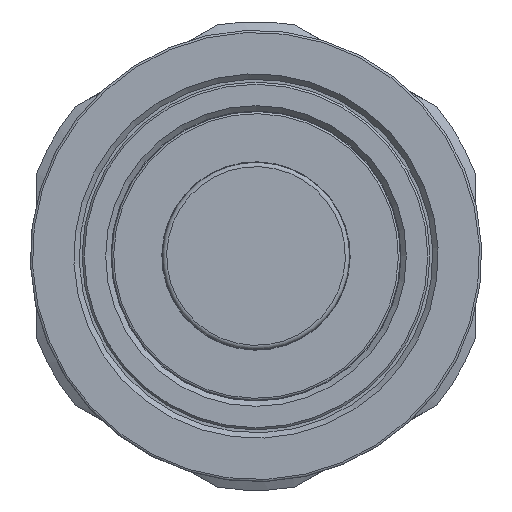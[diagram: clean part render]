
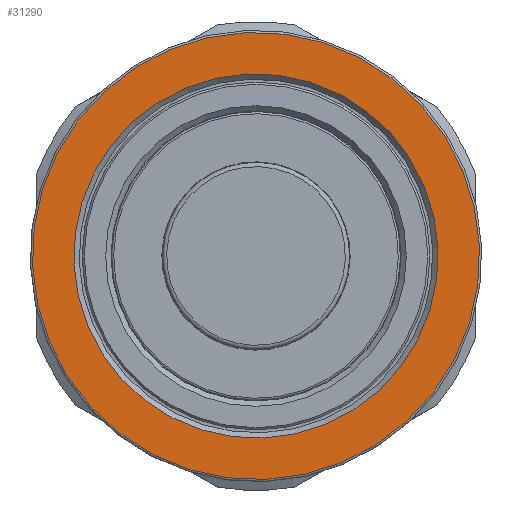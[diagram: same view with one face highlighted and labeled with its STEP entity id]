
A CAD part, front view. The second image highlights one B-rep face of the part: STEP entity #31290.
In plain terms, the highlighted planar face has unit normal (0, -1, 0).
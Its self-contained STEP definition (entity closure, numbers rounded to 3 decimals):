
#8847=FACE_BOUND('',#11666,.T.);
#9969=FACE_OUTER_BOUND('',#11665,.T.);
#11665=EDGE_LOOP('',(#26714));
#11666=EDGE_LOOP('',(#26715));
#12598=CIRCLE('',#32628,20.9);
#12599=CIRCLE('',#32630,17.025);
#14848=VERTEX_POINT('',#60050);
#14849=VERTEX_POINT('',#60054);
#18970=EDGE_CURVE('',#14848,#14848,#12598,.T.);
#18971=EDGE_CURVE('',#14849,#14849,#12599,.T.);
#26714=ORIENTED_EDGE('',*,*,#18970,.F.);
#26715=ORIENTED_EDGE('',*,*,#18971,.F.);
#30050=PLANE('',#32629);
#31290=ADVANCED_FACE('',(#9969,#8847),#30050,.T.);
#32628=AXIS2_PLACEMENT_3D('',#60052,#35766,#35767);
#32629=AXIS2_PLACEMENT_3D('',#60053,#35768,#35769);
#32630=AXIS2_PLACEMENT_3D('',#60055,#35770,#35771);
#35766=DIRECTION('center_axis',(0.,1.,0.));
#35767=DIRECTION('ref_axis',(0.999,0.,0.044));
#35768=DIRECTION('center_axis',(0.,-1.,0.));
#35769=DIRECTION('ref_axis',(-0.044,0.,
0.999));
#35770=DIRECTION('center_axis',(0.,-1.,0.));
#35771=DIRECTION('ref_axis',(0.999,0.,0.044));
#60050=CARTESIAN_POINT('',(-0.925,-25.185,20.88));
#60052=CARTESIAN_POINT('Origin',(0.,-25.185,
0.));
#60053=CARTESIAN_POINT('Origin',(-21.079,-25.185,-0.934));
#60054=CARTESIAN_POINT('',(-17.008,-25.185,-0.753));
#60055=CARTESIAN_POINT('Origin',(0.,-25.185,
0.));
